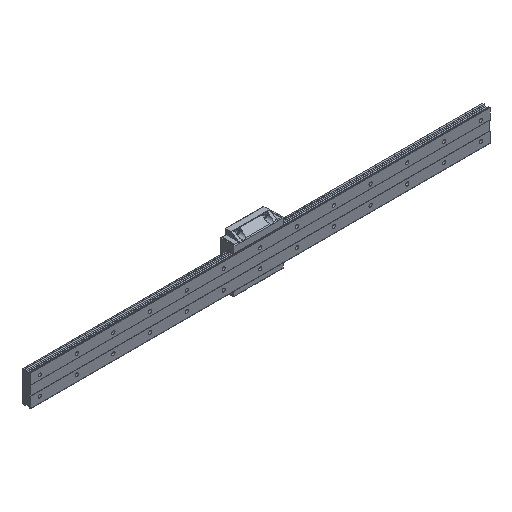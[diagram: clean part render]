
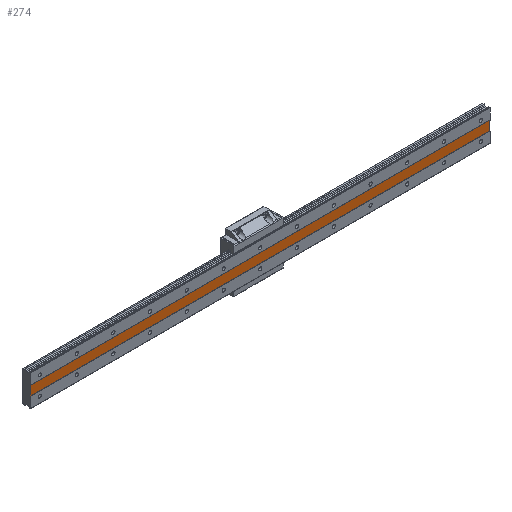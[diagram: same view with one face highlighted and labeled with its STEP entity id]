
A CAD part, isometric view. The second image highlights one B-rep face of the part: STEP entity #274.
In plain terms, the highlighted planar face has unit normal (0, -1, 0).
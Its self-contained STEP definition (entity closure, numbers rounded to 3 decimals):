
#274 = ADVANCED_FACE( '', ( #837 ), #838, .T. );
#837 = FACE_OUTER_BOUND( '', #1621, .T. );
#838 = PLANE( '', #1622 );
#1621 = EDGE_LOOP( '', ( #3173, #3174, #3175, #3176 ) );
#1622 = AXIS2_PLACEMENT_3D( '', #3177, #3178, #3179 );
#3173 = ORIENTED_EDGE( '', *, *, #5212, .T. );
#3174 = ORIENTED_EDGE( '', *, *, #5213, .F. );
#3175 = ORIENTED_EDGE( '', *, *, #5214, .T. );
#3176 = ORIENTED_EDGE( '', *, *, #5210, .T. );
#3177 = CARTESIAN_POINT( '', ( -20., 0.5, -10. ) );
#3178 = DIRECTION( '', ( 0., -1., 0. ) );
#3179 = DIRECTION( '', ( 0., 0., -1. ) );
#5210 = EDGE_CURVE( '', #6341, #6339, #6342, .T. );
#5212 = EDGE_CURVE( '', #6339, #6344, #6345, .T. );
#5213 = EDGE_CURVE( '', #6346, #6344, #6347, .T. );
#5214 = EDGE_CURVE( '', #6346, #6341, #6348, .T. );
#6339 = VERTEX_POINT( '', #7932 );
#6341 = VERTEX_POINT( '', #7934 );
#6342 = LINE( '', #7935, #7936 );
#6344 = VERTEX_POINT( '', #7938 );
#6345 = LINE( '', #7939, #7940 );
#6346 = VERTEX_POINT( '', #7941 );
#6347 = LINE( '', #7942, #7943 );
#6348 = LINE( '', #7944, #7945 );
#7932 = CARTESIAN_POINT( '', ( 980., 0.5, -10. ) );
#7934 = CARTESIAN_POINT( '', ( -20., 0.5, -10. ) );
#7935 = CARTESIAN_POINT( '', ( -20., 0.5, -10. ) );
#7936 = VECTOR( '', #10068, 1. );
#7938 = CARTESIAN_POINT( '', ( 980., 0.5, 10. ) );
#7939 = CARTESIAN_POINT( '', ( 980., 0.5, 10. ) );
#7940 = VECTOR( '', #10072, 1. );
#7941 = CARTESIAN_POINT( '', ( -20., 0.5, 10. ) );
#7942 = CARTESIAN_POINT( '', ( -20., 0.5, 10. ) );
#7943 = VECTOR( '', #10073, 1. );
#7944 = CARTESIAN_POINT( '', ( -20., 0.5, 10. ) );
#7945 = VECTOR( '', #10074, 1. );
#10068 = DIRECTION( '', ( 1., 0., 0. ) );
#10072 = DIRECTION( '', ( 0., 0., 1. ) );
#10073 = DIRECTION( '', ( 1., 0., 0. ) );
#10074 = DIRECTION( '', ( 0., 0., -1. ) );
